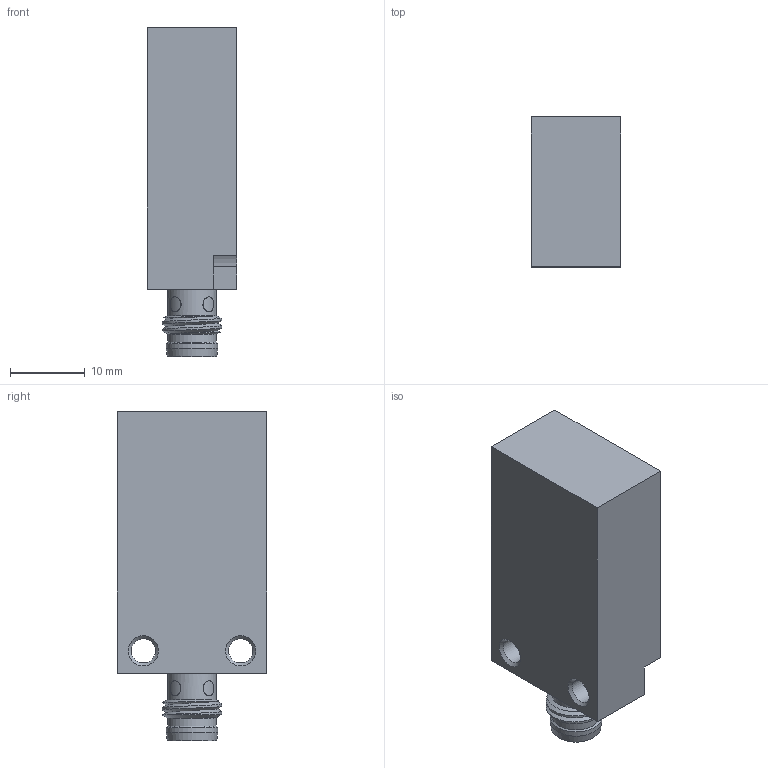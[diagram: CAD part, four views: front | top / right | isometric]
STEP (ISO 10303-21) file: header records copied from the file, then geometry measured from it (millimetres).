
FILE_DESCRIPTION( ( 'STEP AP203' ), '1' );
FILE_NAME( 'N:/Engineering/CAD_Solid/Wirbelstrom/IC/Kunden-3D-Modell/IC2035-03.stp', '2012-04-25T06:50:47', ( ' ' ), ( ' ' ), 'XStep 1.0', ' ', ' ' );
FILE_SCHEMA( ( 'CONFIG_CONTROL_DESIGN) ( )' ) );
Length unit declared in the file: metre
Products named in the file (1): 1
Bounding box: 12 x 20 x 44 mm (x, y, z)
Volume: 8218.4 mm3; surface area: 3299.3 mm2
Topology: 1 solids, 1 shells, 51 faces, 130 edges, 85 vertices
Faces by surface type: cylinder 22, plane 16, cone 8, sphere 3, bspline 2
Full cylindrical faces by diameter (mm): 1 x3, 2 x4, 3.242 x2, 5.77 x1, 6.5 x2, 6.9 x1, 16.5 x1, 16.7 x1
Entity records: 1842 total; most frequent: CARTESIAN_POINT 823, DIRECTION 198, ORIENTED_EDGE 160, EDGE_LOOP 89, AXIS2_PLACEMENT_3D 83, EDGE_CURVE 80, FACE_OUTER_BOUND 66, VERTEX_POINT 65
